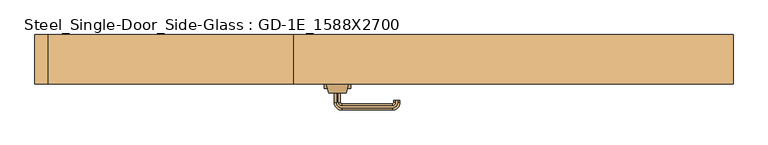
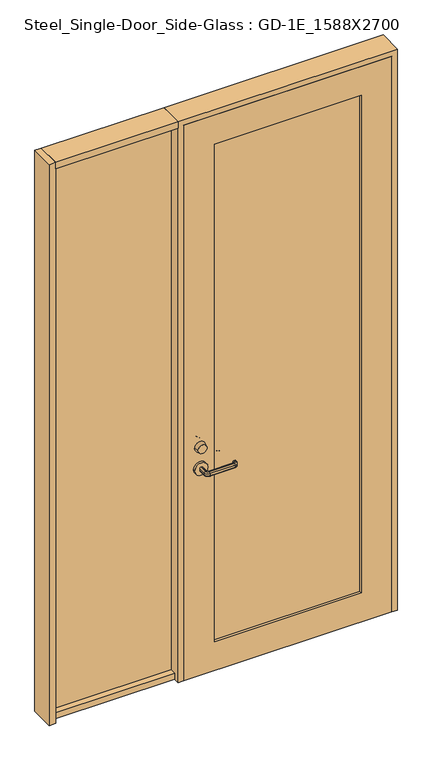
"""IFC4 building model written with IfcOpenShell, lengths in millimetres: door geometry, Steel_Single-Door_Side-Glass : GD-1E_1588X2700."""

from ifc_helpers import new_model, si_unit, point, frame, frame_2d, origin, origin_with_axes, place, context, project, spatial, polyline, circle_curve, ellipse_curve, trimmed, segment, composite_curve, outline, extrude, source, transform, mapped, element, save
from ifc_brep_helpers import plane_surface, cylinder_surface, revolved_surface, advanced_brep


def steel_single_door_side_glass_gd_1e_1588x2700_2b40b70f(model_context):
    return source(origin(), model_context, "Body", "SolidModel", [
        advanced_brep(
        [(-128.5, -76.0, 1101.3812925), (-88.5, -76.0, 1101.3812925), (-133.5, -56.0, 1101.3812925), (-83.5, -56.0, 1101.3812925)],
        [
            (0, 1, circle_curve(frame((-108.5, -76.0, 1101.3812925), z_axis=(0.0, -1.0, 0.0), x_axis=(1.0, 0.0, 0.0)), 20.0)),
            (1, 0, circle_curve(frame((-108.5, -76.0, 1101.3812925), z_axis=(0.0, -1.0, 0.0), x_axis=(-1.0, 0.0, 0.0)), 20.0)),
            (2, 3, circle_curve(frame((-108.5, -56.0, 1101.3812925), z_axis=(0.0, 1.0, 0.0), x_axis=(-1.0, 0.0, 0.0)), 25.0)),
            (3, 2, circle_curve(frame((-108.5, -56.0, 1101.3812925), z_axis=(0.0, 1.0, 0.0), x_axis=(1.0, 0.0, 0.0)), 25.0)),
            (3, 1),
            (0, 2),
        ],
        [
            plane_surface(frame((-108.5, -76.0, 1101.3812925), z_axis=(0.0, -1.0, 0.0), x_axis=(0.0, 0.0, -1.0))),
            plane_surface(frame((-108.5, -56.0, 1101.3812925), z_axis=(0.0, 1.0, 0.0), x_axis=(0.0, 0.0, -1.0))),
            revolved_surface(polyline([(-88.5, -76.0, 1101.3812925), (-83.5, -56.0, 1101.3812925)]), (-108.5, -156.0, 1101.3812925), (0.0, 1.0, 0.0)),
            revolved_surface(polyline([(-128.5, -76.0, 1101.3812925), (-133.5, -56.0, 1101.3812925)]), (-108.5, -156.0, 1101.3812925), (0.0, 1.0, 0.0)),
        ],
        [
            (0, [[1, 2]]),
            (1, [[3, 4]]),
            (2, [[5, -1, 6, -4]]),
            (3, [[-6, -2, -5, -3]]),
        ],
    ),
        advanced_brep(
        [(-128.5, -6.0, 1101.3812925), (-88.5, -6.0, 1101.3812925), (-133.5, -26.0, 1101.3812925), (-83.5, -26.0, 1101.3812925)],
        [
            (0, 1, circle_curve(frame((-108.5, -6.0, 1101.3812925), z_axis=(0.0, 1.0, 0.0), x_axis=(1.0, 0.0, 0.0)), 20.0)),
            (1, 0, circle_curve(frame((-108.5, -6.0, 1101.3812925), z_axis=(0.0, 1.0, 0.0), x_axis=(-1.0, 0.0, 0.0)), 20.0)),
            (2, 3, circle_curve(frame((-108.5, -26.0, 1101.3812925), z_axis=(0.0, -1.0, 0.0), x_axis=(-1.0, 0.0, 0.0)), 25.0)),
            (3, 2, circle_curve(frame((-108.5, -26.0, 1101.3812925), z_axis=(0.0, -1.0, 0.0), x_axis=(1.0, 0.0, 0.0)), 25.0)),
            (2, 0),
            (1, 3),
        ],
        [
            plane_surface(frame((-108.5, -6.0, 1101.3812925), z_axis=(0.0, 1.0, 0.0), x_axis=(0.0, 0.0, -1.0))),
            plane_surface(frame((-108.5, -26.0, 1101.3812925), z_axis=(0.0, -1.0, 0.0), x_axis=(0.0, 0.0, -1.0))),
            revolved_surface(polyline([(-128.5, -6.0, 1101.3812925), (-133.5, -26.0, 1101.3812925)]), (-108.5, 74.0, 1101.3812925), (0.0, -1.0, 0.0)),
            revolved_surface(polyline([(-88.5, -6.0, 1101.3812925), (-83.5, -26.0, 1101.3812925)]), (-108.5, 74.0, 1101.3812925), (0.0, -1.0, 0.0)),
        ],
        [
            (0, [[1, 2]]),
            (1, [[3, 4]]),
            (2, [[5, -2, 6, -3]]),
            (3, [[-6, -1, -5, -4]]),
        ],
    ),
        advanced_brep(
        [(-110.5, -66.0, 1010.0), (-106.5, -66.0, 1010.0), (-101.5, -66.0, 1005.0), (-101.5, -66.0, 995.0477623), (-106.5, -66.0, 990.0477623), (-110.5, -66.0, 990.0477623), (-115.5, -66.0, 995.0477623), (-115.5, -66.0, 1005.0), (-115.5, -98.5, 1005.0), (-110.5, -98.5, 1010.0), (-115.5, -98.5, 995.0477623), (-110.5, -98.5, 990.0477623), (-106.5, -98.5, 990.0477623), (-98.5, -106.5, 990.0477623), (16.5, -106.5, 990.0477623), (24.5, -98.5, 990.0477623), (24.5, -93.5, 990.0477623), (28.5, -93.5, 990.0477623), (28.5, -98.5, 990.0477623), (16.5, -110.5, 990.0477623), (-98.5, -110.5, 990.0477623), (-101.5, -98.5, 995.0477623), (-101.5, -98.5, 1005.0), (-106.5, -98.5, 1010.0), (-98.5, -110.5, 1010.0), (16.5, -110.5, 1010.0), (28.5, -98.5, 1010.0), (28.5, -93.5, 1010.0), (24.5, -93.5, 1010.0), (24.5, -98.5, 1010.0), (16.5, -106.5, 1010.0), (-98.5, -106.5, 1010.0), (-98.5, -115.5, 1005.0), (-98.5, -115.5, 995.0477623), (-98.5, -101.5, 995.0477623), (-98.5, -101.5, 1005.0), (16.5, -115.5, 1005.0), (16.5, -115.5, 995.0477623), (16.5, -101.5, 995.0477623), (16.5, -101.5, 1005.0), (33.5, -98.5, 1005.0), (33.5, -98.5, 995.0477623), (19.5, -98.5, 995.0477623), (19.5, -98.5, 1005.0), (33.5, -93.5, 1005.0), (33.5, -93.5, 995.0477623), (19.5, -93.5, 995.0477623), (19.5, -93.5, 1005.0)],
        [
            (0, 1),
            (1, 2, circle_curve(frame((-106.5, -66.0, 1005.0), z_axis=(0.0, 1.0, 0.0), x_axis=(-1.0, 0.0, 0.0)), 5.0)),
            (2, 3),
            (3, 4, circle_curve(frame((-106.5, -66.0, 995.0477623), z_axis=(0.0, 1.0, 0.0), x_axis=(-1.0, 0.0, 0.0)), 5.0)),
            (4, 5),
            (5, 6, circle_curve(frame((-110.5, -66.0, 995.0477623), z_axis=(0.0, 1.0, 0.0), x_axis=(-1.0, 0.0, 0.0)), 5.0)),
            (6, 7),
            (7, 0, circle_curve(frame((-110.5, -66.0, 1005.0), z_axis=(0.0, 1.0, 0.0), x_axis=(-1.0, 0.0, 0.0)), 5.0)),
            (7, 8),
            (8, 9, circle_curve(frame((-110.5, -98.5, 1005.0), z_axis=(0.0, 1.0, 0.0), x_axis=(-1.0, 0.0, 0.0)), 5.0)),
            (9, 0),
            (6, 10),
            (10, 8),
            (5, 11),
            (11, 10, circle_curve(frame((-110.5, -98.5, 995.0477623), z_axis=(0.0, 1.0, 0.0), x_axis=(-1.0, 0.0, 0.0)), 5.0)),
            (4, 12),
            (12, 13, circle_curve(frame((-98.5, -98.5, 990.0477623), z_axis=(0.0, 0.0, 1.0), x_axis=(-1.0, 0.0, 0.0)), 8.0)),
            (13, 14),
            (14, 15, circle_curve(frame((16.5, -98.5, 990.0477623), z_axis=(0.0, 0.0, 1.0), x_axis=(0.0, -1.0, 0.0)), 8.0)),
            (15, 16),
            (16, 17),
            (17, 18),
            (18, 19, circle_curve(frame((16.5, -98.5, 990.0477623), z_axis=(0.0, 0.0, -1.0), x_axis=(0.0, -1.0, 0.0)), 12.0)),
            (19, 20),
            (20, 11, circle_curve(frame((-98.5, -98.5, 990.0477623), z_axis=(0.0, 0.0, -1.0), x_axis=(-1.0, 0.0, 0.0)), 12.0)),
            (3, 21),
            (21, 12, circle_curve(frame((-106.5, -98.5, 995.0477623), z_axis=(0.0, 1.0, 0.0), x_axis=(-1.0, 0.0, 0.0)), 5.0)),
            (2, 22),
            (22, 21),
            (1, 23),
            (23, 22, circle_curve(frame((-106.5, -98.5, 1005.0), z_axis=(0.0, 1.0, 0.0), x_axis=(-1.0, 0.0, 0.0)), 5.0)),
            (9, 24, circle_curve(frame((-98.5, -98.5, 1010.0), z_axis=(0.0, 0.0, 1.0), x_axis=(-1.0, 0.0, 0.0)), 12.0)),
            (24, 25),
            (25, 26, circle_curve(frame((16.5, -98.5, 1010.0), z_axis=(0.0, 0.0, 1.0), x_axis=(0.0, -1.0, 0.0)), 12.0)),
            (26, 27),
            (27, 28),
            (28, 29),
            (29, 30, circle_curve(frame((16.5, -98.5, 1010.0), z_axis=(0.0, 0.0, -1.0), x_axis=(0.0, -1.0, 0.0)), 8.0)),
            (30, 31),
            (31, 23, circle_curve(frame((-98.5, -98.5, 1010.0), z_axis=(0.0, 0.0, -1.0), x_axis=(-1.0, 0.0, 0.0)), 8.0)),
            (32, 24, circle_curve(frame((-98.5, -110.5, 1005.0), z_axis=(-1.0, 0.0, 0.0), x_axis=(0.0, -1.0, 0.0)), 5.0)),
            (8, 32, circle_curve(frame((-98.5, -98.5, 1005.0), z_axis=(0.0, 0.0, 1.0), x_axis=(-1.0, 0.0, 0.0)), 17.0)),
            (33, 32),
            (10, 33, circle_curve(frame((-98.5, -98.5, 995.0477623), z_axis=(0.0, 0.0, 1.0), x_axis=(-1.0, 0.0, 0.0)), 17.0)),
            (20, 33, circle_curve(frame((-98.5, -110.5, 995.0477623), z_axis=(-1.0, 0.0, 0.0), x_axis=(0.0, -1.0, 0.0)), 5.0)),
            (34, 13, circle_curve(frame((-98.5, -106.5, 995.0477623), z_axis=(-1.0, 0.0, 0.0), x_axis=(0.0, -1.0, 0.0)), 5.0)),
            (21, 34, circle_curve(frame((-98.5, -98.5, 995.0477623), z_axis=(0.0, 0.0, 1.0), x_axis=(-1.0, 0.0, 0.0)), 3.0)),
            (35, 34),
            (22, 35, circle_curve(frame((-98.5, -98.5, 1005.0), z_axis=(0.0, 0.0, 1.0), x_axis=(-1.0, 0.0, 0.0)), 3.0)),
            (31, 35, circle_curve(frame((-98.5, -106.5, 1005.0), z_axis=(-1.0, 0.0, 0.0), x_axis=(0.0, -1.0, 0.0)), 5.0)),
            (32, 36),
            (36, 25, circle_curve(frame((16.5, -110.5, 1005.0), z_axis=(-1.0, 0.0, 0.0), x_axis=(0.0, -1.0, 0.0)), 5.0)),
            (33, 37),
            (37, 36),
            (19, 37, circle_curve(frame((16.5, -110.5, 995.0477623), z_axis=(-1.0, 0.0, 0.0), x_axis=(0.0, -1.0, 0.0)), 5.0)),
            (34, 38),
            (38, 14, circle_curve(frame((16.5, -106.5, 995.0477623), z_axis=(-1.0, 0.0, 0.0), x_axis=(0.0, -1.0, 0.0)), 5.0)),
            (35, 39),
            (39, 38),
            (30, 39, circle_curve(frame((16.5, -106.5, 1005.0), z_axis=(-1.0, 0.0, 0.0), x_axis=(0.0, -1.0, 0.0)), 5.0)),
            (40, 26, circle_curve(frame((28.5, -98.5, 1005.0), z_axis=(0.0, -1.0, 0.0), x_axis=(1.0, 0.0, 0.0)), 5.0)),
            (36, 40, circle_curve(frame((16.5, -98.5, 1005.0), z_axis=(0.0, 0.0, 1.0), x_axis=(0.0, -1.0, 0.0)), 17.0)),
            (41, 40),
            (37, 41, circle_curve(frame((16.5, -98.5, 995.0477623), z_axis=(0.0, 0.0, 1.0), x_axis=(0.0, -1.0, 0.0)), 17.0)),
            (18, 41, circle_curve(frame((28.5, -98.5, 995.0477623), z_axis=(0.0, -1.0, 0.0), x_axis=(1.0, 0.0, 0.0)), 5.0)),
            (42, 15, circle_curve(frame((24.5, -98.5, 995.0477623), z_axis=(0.0, -1.0, 0.0), x_axis=(1.0, 0.0, 0.0)), 5.0)),
            (38, 42, circle_curve(frame((16.5, -98.5, 995.0477623), z_axis=(0.0, 0.0, 1.0), x_axis=(0.0, -1.0, 0.0)), 3.0)),
            (43, 42),
            (39, 43, circle_curve(frame((16.5, -98.5, 1005.0), z_axis=(0.0, 0.0, 1.0), x_axis=(0.0, -1.0, 0.0)), 3.0)),
            (29, 43, circle_curve(frame((24.5, -98.5, 1005.0), z_axis=(0.0, -1.0, 0.0), x_axis=(1.0, 0.0, 0.0)), 5.0)),
            (27, 44, circle_curve(frame((28.5, -93.5, 1005.0), z_axis=(0.0, 1.0, 0.0), x_axis=(1.0, 0.0, 0.0)), 5.0)),
            (44, 45),
            (45, 17, circle_curve(frame((28.5, -93.5, 995.0477623), z_axis=(0.0, 1.0, 0.0), x_axis=(1.0, 0.0, 0.0)), 5.0)),
            (16, 46, circle_curve(frame((24.5, -93.5, 995.0477623), z_axis=(0.0, 1.0, 0.0), x_axis=(1.0, 0.0, 0.0)), 5.0)),
            (46, 47),
            (47, 28, circle_curve(frame((24.5, -93.5, 1005.0), z_axis=(0.0, 1.0, 0.0), x_axis=(1.0, 0.0, 0.0)), 5.0)),
            (40, 44),
            (41, 45),
            (42, 46),
            (43, 47),
        ],
        [
            plane_surface(frame((-118.698039, -66.0, 1000.0), z_axis=(0.0, 1.0, 0.0), x_axis=(0.0, 0.0, 1.0))),
            cylinder_surface(frame((-110.5, -66.0, 1005.0), z_axis=(0.0, 1.0, 0.0), x_axis=(-1.0, 0.0, 0.0)), 5.0),
            plane_surface(frame((-115.5, -66.0, 1005.0), z_axis=(-1.0, 0.0, 0.0), x_axis=(0.0, -1.0, 0.0))),
            cylinder_surface(frame((-110.5, -66.0, 995.0477623), z_axis=(0.0, 1.0, 0.0), x_axis=(-1.0, 0.0, 0.0)), 5.0),
            plane_surface(frame((-110.5, -66.0, 990.0477623), z_axis=(0.0, 0.0, -1.0), x_axis=(0.0, -1.0, 0.0))),
            cylinder_surface(frame((-106.5, -66.0, 995.0477623), z_axis=(0.0, 1.0, 0.0), x_axis=(-1.0, 0.0, 0.0)), 5.0),
            plane_surface(frame((-101.5, -66.0, 995.0477623), z_axis=(1.0, 0.0, 0.0), x_axis=(0.0, -1.0, 0.0))),
            cylinder_surface(frame((-106.5, -66.0, 1005.0), z_axis=(0.0, 1.0, 0.0), x_axis=(-1.0, 0.0, 0.0)), 5.0),
            plane_surface(frame((-106.5, -66.0, 1010.0), z_axis=(0.0, 0.0, 1.0), x_axis=(0.0, -1.0, 0.0))),
            revolved_surface(trimmed(ellipse_curve(frame((-110.5, -98.5, 1005.0), z_axis=(0.0, -1.0, 0.0), x_axis=(-1.0, 0.0, 0.0)), 5.0, 5.0), [point((-110.5, -98.5, 1010.0))], [point((-115.5, -98.5, 1005.0))], True, "CARTESIAN"), (-98.5, -98.5, 1000.0), (0.0, 0.0, -1.0)),
            cylinder_surface(frame((-98.5, -98.5, 1000.0), z_axis=(0.0, 0.0, -1.0), x_axis=(-1.0, 0.0, 0.0)), 17.0),
            revolved_surface(trimmed(ellipse_curve(frame((-110.5, -98.5, 995.0477623), z_axis=(0.0, -1.0, 0.0), x_axis=(-1.0, 0.0, 0.0)), 5.0, 5.0), [point((-115.5, -98.5, 995.0477623))], [point((-110.5, -98.5, 990.0477623))], True, "CARTESIAN"), (-98.5, -98.5, 1000.0), (0.0, 0.0, -1.0)),
            revolved_surface(trimmed(ellipse_curve(frame((-106.5, -98.5, 995.0477623), z_axis=(0.0, -1.0, 0.0), x_axis=(-1.0, 0.0, 0.0)), 5.0, 5.0), [point((-106.5, -98.5, 990.0477623))], [point((-101.5, -98.5, 995.0477623))], True, "CARTESIAN"), (-98.5, -98.5, 1000.0), (0.0, 0.0, -1.0)),
            revolved_surface(polyline([(-101.5, -98.5, 995.0477623), (-101.5, -98.5, 1005.0)]), (-98.5, -98.5, 1000.0), (0.0, 0.0, -1.0)),
            revolved_surface(trimmed(ellipse_curve(frame((-106.5, -98.5, 1005.0), z_axis=(0.0, -1.0, 0.0), x_axis=(-1.0, 0.0, 0.0)), 5.0, 5.0), [point((-101.5, -98.5, 1005.0))], [point((-106.5, -98.5, 1010.0))], True, "CARTESIAN"), (-98.5, -98.5, 1000.0), (0.0, 0.0, -1.0)),
            cylinder_surface(frame((-98.5, -110.5, 1005.0), z_axis=(-1.0, 0.0, 0.0), x_axis=(0.0, -1.0, 0.0)), 5.0),
            plane_surface(frame((-98.5, -115.5, 1005.0), z_axis=(0.0, -1.0, 0.0), x_axis=(1.0, 0.0, 0.0))),
            cylinder_surface(frame((-98.5, -110.5, 995.0477623), z_axis=(-1.0, 0.0, 0.0), x_axis=(0.0, -1.0, 0.0)), 5.0),
            cylinder_surface(frame((-98.5, -106.5, 995.0477623), z_axis=(-1.0, 0.0, 0.0), x_axis=(0.0, -1.0, 0.0)), 5.0),
            plane_surface(frame((-98.5, -101.5, 995.0477623), z_axis=(0.0, 1.0, 0.0), x_axis=(1.0, 0.0, 0.0))),
            cylinder_surface(frame((-98.5, -106.5, 1005.0), z_axis=(-1.0, 0.0, 0.0), x_axis=(0.0, -1.0, 0.0)), 5.0),
            revolved_surface(trimmed(ellipse_curve(frame((16.5, -110.5, 1005.0), z_axis=(1.0, 0.0, 0.0), x_axis=(0.0, -1.0, 0.0)), 5.0, 5.0), [point((16.5, -110.5, 1010.0))], [point((16.5, -115.5, 1005.0))], True, "CARTESIAN"), (16.5, -98.5, 1000.0), (0.0, 0.0, -1.0)),
            cylinder_surface(frame((16.5, -98.5, 1000.0), z_axis=(0.0, 0.0, -1.0), x_axis=(0.0, -1.0, 0.0)), 17.0),
            revolved_surface(trimmed(ellipse_curve(frame((16.5, -110.5, 995.0477623), z_axis=(1.0, 0.0, 0.0), x_axis=(0.0, -1.0, 0.0)), 5.0, 5.0), [point((16.5, -115.5, 995.0477623))], [point((16.5, -110.5, 990.0477623))], True, "CARTESIAN"), (16.5, -98.5, 1000.0), (0.0, 0.0, -1.0)),
            revolved_surface(trimmed(ellipse_curve(frame((16.5, -106.5, 995.0477623), z_axis=(1.0, 0.0, 0.0), x_axis=(0.0, -1.0, 0.0)), 5.0, 5.0), [point((16.5, -106.5, 990.0477623))], [point((16.5, -101.5, 995.0477623))], True, "CARTESIAN"), (16.5, -98.5, 1000.0), (0.0, 0.0, -1.0)),
            revolved_surface(polyline([(16.5, -101.5, 995.0477623), (16.5, -101.5, 1005.0)]), (16.5, -98.5, 1000.0), (0.0, 0.0, -1.0)),
            revolved_surface(trimmed(ellipse_curve(frame((16.5, -106.5, 1005.0), z_axis=(1.0, 0.0, 0.0), x_axis=(0.0, -1.0, 0.0)), 5.0, 5.0), [point((16.5, -101.5, 1005.0))], [point((16.5, -106.5, 1010.0))], True, "CARTESIAN"), (16.5, -98.5, 1000.0), (0.0, 0.0, -1.0)),
            plane_surface(frame((16.301961, -93.5, 1000.0), z_axis=(0.0, 1.0, 0.0), x_axis=(0.0, 0.0, -1.0))),
            cylinder_surface(frame((28.5, -98.5, 1005.0), z_axis=(0.0, -1.0, 0.0), x_axis=(1.0, 0.0, 0.0)), 5.0),
            plane_surface(frame((33.5, -98.5, 1005.0), z_axis=(1.0, 0.0, 0.0), x_axis=(0.0, 1.0, 0.0))),
            cylinder_surface(frame((28.5, -98.5, 995.0477623), z_axis=(0.0, -1.0, 0.0), x_axis=(1.0, 0.0, 0.0)), 5.0),
            cylinder_surface(frame((24.5, -98.5, 995.0477623), z_axis=(0.0, -1.0, 0.0), x_axis=(1.0, 0.0, 0.0)), 5.0),
            plane_surface(frame((19.5, -98.5, 995.0477623), z_axis=(-1.0, 0.0, 0.0), x_axis=(0.0, 1.0, 0.0))),
            cylinder_surface(frame((24.5, -98.5, 1005.0), z_axis=(0.0, -1.0, 0.0), x_axis=(1.0, 0.0, 0.0)), 5.0),
        ],
        [
            (0, [[1, 2, 3, 4, 5, 6, 7, 8]]),
            (1, [[9, 10, 11, -8]]),
            (2, [[12, 13, -9, -7]]),
            (3, [[14, 15, -12, -6]]),
            (4, [[16, 17, 18, 19, 20, 21, 22, 23, 24, 25, -14, -5]]),
            (5, [[26, 27, -16, -4]]),
            (6, [[28, 29, -26, -3]]),
            (7, [[30, 31, -28, -2]]),
            (8, [[-11, 32, 33, 34, 35, 36, 37, 38, 39, 40, -30, -1]]),
            (9, [[41, -32, -10, 42]]),
            (10, [[43, -42, -13, 44]]),
            (11, [[45, -44, -15, -25]]),
            (12, [[46, -17, -27, 47]]),
            (13, [[48, -47, -29, 49]]),
            (14, [[50, -49, -31, -40]]),
            (15, [[51, 52, -33, -41]]),
            (16, [[53, 54, -51, -43]]),
            (17, [[-24, 55, -53, -45]]),
            (18, [[56, 57, -18, -46]]),
            (19, [[58, 59, -56, -48]]),
            (20, [[-39, 60, -58, -50]]),
            (21, [[61, -34, -52, 62]]),
            (22, [[63, -62, -54, 64]]),
            (23, [[65, -64, -55, -23]]),
            (24, [[66, -19, -57, 67]]),
            (25, [[68, -67, -59, 69]]),
            (26, [[70, -69, -60, -38]]),
            (27, [[71, 72, 73, -21, 74, 75, 76, -36]]),
            (28, [[77, -71, -35, -61]]),
            (29, [[78, -72, -77, -63]]),
            (30, [[-22, -73, -78, -65]]),
            (31, [[79, -74, -20, -66]]),
            (32, [[80, -75, -79, -68]]),
            (33, [[-37, -76, -80, -70]]),
        ],
    ),
        advanced_brep(
        [(-106.5, -16.0, 990.0), (-101.5, -16.0, 995.0), (-101.5, -16.0, 1005.0), (-106.5, -16.0, 1010.0), (-110.5, -16.0, 1010.0), (-115.5, -16.0, 1005.0), (-115.5, -16.0, 995.0), (-110.5, -16.0, 990.0), (-110.5, 16.5, 990.0), (-98.5, 28.5, 990.0), (16.5, 28.5, 990.0), (28.5, 16.5, 990.0), (28.5, 11.5, 990.0), (24.5, 11.5, 990.0), (24.5, 16.5, 990.0), (16.5, 24.5, 990.0), (-98.5, 24.5, 990.0), (-106.5, 16.5, 990.0), (-115.5, 16.5, 995.0), (-115.5, 16.5, 1005.0), (-110.5, 16.5, 1010.0), (-106.5, 16.5, 1010.0), (-98.5, 24.5, 1010.0), (16.5, 24.5, 1010.0), (24.5, 16.5, 1010.0), (24.5, 11.5, 1010.0), (28.5, 11.5, 1010.0), (28.5, 16.5, 1010.0), (16.5, 28.5, 1010.0), (-98.5, 28.5, 1010.0), (-101.5, 16.5, 1005.0), (-101.5, 16.5, 995.0), (-98.5, 33.5, 995.0), (-98.5, 33.5, 1005.0), (-98.5, 19.5, 1005.0), (-98.5, 19.5, 995.0), (16.5, 33.5, 995.0), (16.5, 33.5, 1005.0), (16.5, 19.5, 1005.0), (16.5, 19.5, 995.0), (33.5, 16.5, 995.0), (33.5, 16.5, 1005.0), (19.5, 16.5, 1005.0), (19.5, 16.5, 995.0), (33.5, 11.5, 995.0), (33.5, 11.5, 1005.0), (19.5, 11.5, 1005.0), (19.5, 11.5, 995.0)],
        [
            (0, 1, circle_curve(frame((-106.5, -16.0, 995.0), z_axis=(0.0, -1.0, 0.0), x_axis=(1.0, 0.0, 0.0)), 5.0)),
            (1, 2),
            (2, 3, circle_curve(frame((-106.5, -16.0, 1005.0), z_axis=(0.0, -1.0, 0.0), x_axis=(1.0, 0.0, 0.0)), 5.0)),
            (3, 4),
            (4, 5, circle_curve(frame((-110.5, -16.0, 1005.0), z_axis=(0.0, -1.0, 0.0), x_axis=(1.0, 0.0, 0.0)), 5.0)),
            (5, 6),
            (6, 7, circle_curve(frame((-110.5, -16.0, 995.0), z_axis=(0.0, -1.0, 0.0), x_axis=(1.0, 0.0, 0.0)), 5.0)),
            (7, 0),
            (7, 8),
            (8, 9, circle_curve(frame((-98.5, 16.5, 990.0), z_axis=(0.0, 0.0, -1.0), x_axis=(-1.0, 0.0, 0.0)), 12.0)),
            (9, 10),
            (10, 11, circle_curve(frame((16.5, 16.5, 990.0), z_axis=(0.0, 0.0, -1.0), x_axis=(0.0, 1.0, 0.0)), 12.0)),
            (11, 12),
            (12, 13),
            (13, 14),
            (14, 15, circle_curve(frame((16.5, 16.5, 990.0), z_axis=(0.0, 0.0, 1.0), x_axis=(0.0, 1.0, 0.0)), 8.0)),
            (15, 16),
            (16, 17, circle_curve(frame((-98.5, 16.5, 990.0), z_axis=(0.0, 0.0, 1.0), x_axis=(-1.0, 0.0, 0.0)), 8.0)),
            (17, 0),
            (6, 18),
            (18, 8, circle_curve(frame((-110.5, 16.5, 995.0), z_axis=(0.0, -1.0, 0.0), x_axis=(1.0, 0.0, 0.0)), 5.0)),
            (5, 19),
            (19, 18),
            (4, 20),
            (20, 19, circle_curve(frame((-110.5, 16.5, 1005.0), z_axis=(0.0, -1.0, 0.0), x_axis=(1.0, 0.0, 0.0)), 5.0)),
            (3, 21),
            (21, 22, circle_curve(frame((-98.5, 16.5, 1010.0), z_axis=(0.0, 0.0, -1.0), x_axis=(-1.0, 0.0, 0.0)), 8.0)),
            (22, 23),
            (23, 24, circle_curve(frame((16.5, 16.5, 1010.0), z_axis=(0.0, 0.0, -1.0), x_axis=(0.0, 1.0, 0.0)), 8.0)),
            (24, 25),
            (25, 26),
            (26, 27),
            (27, 28, circle_curve(frame((16.5, 16.5, 1010.0), z_axis=(0.0, 0.0, 1.0), x_axis=(0.0, 1.0, 0.0)), 12.0)),
            (28, 29),
            (29, 20, circle_curve(frame((-98.5, 16.5, 1010.0), z_axis=(0.0, 0.0, 1.0), x_axis=(-1.0, 0.0, 0.0)), 12.0)),
            (2, 30),
            (30, 21, circle_curve(frame((-106.5, 16.5, 1005.0), z_axis=(0.0, -1.0, 0.0), x_axis=(1.0, 0.0, 0.0)), 5.0)),
            (1, 31),
            (31, 30),
            (17, 31, circle_curve(frame((-106.5, 16.5, 995.0), z_axis=(0.0, -1.0, 0.0), x_axis=(1.0, 0.0, 0.0)), 5.0)),
            (32, 9, circle_curve(frame((-98.5, 28.5, 995.0), z_axis=(-1.0, 0.0, 0.0), x_axis=(0.0, -1.0, 0.0)), 5.0)),
            (18, 32, circle_curve(frame((-98.5, 16.5, 995.0), z_axis=(0.0, 0.0, -1.0), x_axis=(-1.0, 0.0, 0.0)), 17.0)),
            (33, 32),
            (19, 33, circle_curve(frame((-98.5, 16.5, 1005.0), z_axis=(0.0, 0.0, -1.0), x_axis=(-1.0, 0.0, 0.0)), 17.0)),
            (29, 33, circle_curve(frame((-98.5, 28.5, 1005.0), z_axis=(-1.0, 0.0, 0.0), x_axis=(0.0, -1.0, 0.0)), 5.0)),
            (34, 22, circle_curve(frame((-98.5, 24.5, 1005.0), z_axis=(-1.0, 0.0, 0.0), x_axis=(0.0, -1.0, 0.0)), 5.0)),
            (30, 34, circle_curve(frame((-98.5, 16.5, 1005.0), z_axis=(0.0, 0.0, -1.0), x_axis=(-1.0, 0.0, 0.0)), 3.0)),
            (35, 34),
            (31, 35, circle_curve(frame((-98.5, 16.5, 995.0), z_axis=(0.0, 0.0, -1.0), x_axis=(-1.0, 0.0, 0.0)), 3.0)),
            (16, 35, circle_curve(frame((-98.5, 24.5, 995.0), z_axis=(-1.0, 0.0, 0.0), x_axis=(0.0, -1.0, 0.0)), 5.0)),
            (32, 36),
            (36, 10, circle_curve(frame((16.5, 28.5, 995.0), z_axis=(-1.0, 0.0, 0.0), x_axis=(0.0, -1.0, 0.0)), 5.0)),
            (33, 37),
            (37, 36),
            (28, 37, circle_curve(frame((16.5, 28.5, 1005.0), z_axis=(-1.0, 0.0, 0.0), x_axis=(0.0, -1.0, 0.0)), 5.0)),
            (34, 38),
            (38, 23, circle_curve(frame((16.5, 24.5, 1005.0), z_axis=(-1.0, 0.0, 0.0), x_axis=(0.0, -1.0, 0.0)), 5.0)),
            (35, 39),
            (39, 38),
            (15, 39, circle_curve(frame((16.5, 24.5, 995.0), z_axis=(-1.0, 0.0, 0.0), x_axis=(0.0, -1.0, 0.0)), 5.0)),
            (40, 11, circle_curve(frame((28.5, 16.5, 995.0), z_axis=(0.0, 1.0, 0.0), x_axis=(-1.0, 0.0, 0.0)), 5.0)),
            (36, 40, circle_curve(frame((16.5, 16.5, 995.0), z_axis=(0.0, 0.0, -1.0), x_axis=(0.0, 1.0, 0.0)), 17.0)),
            (41, 40),
            (37, 41, circle_curve(frame((16.5, 16.5, 1005.0), z_axis=(0.0, 0.0, -1.0), x_axis=(0.0, 1.0, 0.0)), 17.0)),
            (27, 41, circle_curve(frame((28.5, 16.5, 1005.0), z_axis=(0.0, 1.0, 0.0), x_axis=(-1.0, 0.0, 0.0)), 5.0)),
            (42, 24, circle_curve(frame((24.5, 16.5, 1005.0), z_axis=(0.0, 1.0, 0.0), x_axis=(-1.0, 0.0, 0.0)), 5.0)),
            (38, 42, circle_curve(frame((16.5, 16.5, 1005.0), z_axis=(0.0, 0.0, -1.0), x_axis=(0.0, 1.0, 0.0)), 3.0)),
            (43, 42),
            (39, 43, circle_curve(frame((16.5, 16.5, 995.0), z_axis=(0.0, 0.0, -1.0), x_axis=(0.0, 1.0, 0.0)), 3.0)),
            (14, 43, circle_curve(frame((24.5, 16.5, 995.0), z_axis=(0.0, 1.0, 0.0), x_axis=(-1.0, 0.0, 0.0)), 5.0)),
            (12, 44, circle_curve(frame((28.5, 11.5, 995.0), z_axis=(0.0, -1.0, 0.0), x_axis=(-1.0, 0.0, 0.0)), 5.0)),
            (44, 45),
            (45, 26, circle_curve(frame((28.5, 11.5, 1005.0), z_axis=(0.0, -1.0, 0.0), x_axis=(-1.0, 0.0, 0.0)), 5.0)),
            (25, 46, circle_curve(frame((24.5, 11.5, 1005.0), z_axis=(0.0, -1.0, 0.0), x_axis=(-1.0, 0.0, 0.0)), 5.0)),
            (46, 47),
            (47, 13, circle_curve(frame((24.5, 11.5, 995.0), z_axis=(0.0, -1.0, 0.0), x_axis=(-1.0, 0.0, 0.0)), 5.0)),
            (40, 44),
            (41, 45),
            (42, 46),
            (43, 47),
        ],
        [
            plane_surface(frame((-118.698039, -16.0, 1000.0), z_axis=(0.0, -1.0, 0.0), x_axis=(0.0, 0.0, -1.0))),
            plane_surface(frame((-106.5, -16.0, 990.0), z_axis=(0.0, 0.0, -1.0), x_axis=(0.0, 1.0, 0.0))),
            cylinder_surface(frame((-110.5, -16.0, 995.0), z_axis=(0.0, -1.0, 0.0), x_axis=(1.0, 0.0, 0.0)), 5.0),
            plane_surface(frame((-115.5, -16.0, 995.0), z_axis=(-1.0, 0.0, 0.0), x_axis=(0.0, 1.0, 0.0))),
            cylinder_surface(frame((-110.5, -16.0, 1005.0), z_axis=(0.0, -1.0, 0.0), x_axis=(1.0, 0.0, 0.0)), 5.0),
            plane_surface(frame((-110.5, -16.0, 1010.0), z_axis=(0.0, 0.0, 1.0), x_axis=(0.0, 1.0, 0.0))),
            cylinder_surface(frame((-106.5, -16.0, 1005.0), z_axis=(0.0, -1.0, 0.0), x_axis=(1.0, 0.0, 0.0)), 5.0),
            plane_surface(frame((-101.5, -16.0, 1005.0), z_axis=(1.0, 0.0, 0.0), x_axis=(0.0, 1.0, 0.0))),
            cylinder_surface(frame((-106.5, -16.0, 995.0), z_axis=(0.0, -1.0, 0.0), x_axis=(1.0, 0.0, 0.0)), 5.0),
            revolved_surface(trimmed(ellipse_curve(frame((-110.5, 16.5, 995.0), z_axis=(0.0, 1.0, 0.0), x_axis=(1.0, 0.0, 0.0)), 5.0, 5.0), [point((-110.5, 16.5, 990.0))], [point((-115.5, 16.5, 995.0))], True, "CARTESIAN"), (-98.5, 16.5, 1000.0), (0.0, 0.0, 1.0)),
            cylinder_surface(frame((-98.5, 16.5, 1000.0), z_axis=(0.0, 0.0, 1.0), x_axis=(-1.0, 0.0, 0.0)), 17.0),
            revolved_surface(trimmed(ellipse_curve(frame((-110.5, 16.5, 1005.0), z_axis=(0.0, 1.0, 0.0), x_axis=(1.0, 0.0, 0.0)), 5.0, 5.0), [point((-115.5, 16.5, 1005.0))], [point((-110.5, 16.5, 1010.0))], True, "CARTESIAN"), (-98.5, 16.5, 1000.0), (0.0, 0.0, 1.0)),
            revolved_surface(trimmed(ellipse_curve(frame((-106.5, 16.5, 1005.0), z_axis=(0.0, 1.0, 0.0), x_axis=(1.0, 0.0, 0.0)), 5.0, 5.0), [point((-106.5, 16.5, 1010.0))], [point((-101.5, 16.5, 1005.0))], True, "CARTESIAN"), (-98.5, 16.5, 1000.0), (0.0, 0.0, 1.0)),
            revolved_surface(polyline([(-101.5, 16.5, 1005.0), (-101.5, 16.5, 995.0)]), (-98.5, 16.5, 1000.0), (0.0, 0.0, 1.0)),
            revolved_surface(trimmed(ellipse_curve(frame((-106.5, 16.5, 995.0), z_axis=(0.0, 1.0, 0.0), x_axis=(1.0, 0.0, 0.0)), 5.0, 5.0), [point((-101.5, 16.5, 995.0))], [point((-106.5, 16.5, 990.0))], True, "CARTESIAN"), (-98.5, 16.5, 1000.0), (0.0, 0.0, 1.0)),
            cylinder_surface(frame((-98.5, 28.5, 995.0), z_axis=(-1.0, 0.0, 0.0), x_axis=(0.0, -1.0, 0.0)), 5.0),
            plane_surface(frame((-98.5, 33.5, 995.0), z_axis=(0.0, 1.0, 0.0), x_axis=(1.0, 0.0, 0.0))),
            cylinder_surface(frame((-98.5, 28.5, 1005.0), z_axis=(-1.0, 0.0, 0.0), x_axis=(0.0, -1.0, 0.0)), 5.0),
            cylinder_surface(frame((-98.5, 24.5, 1005.0), z_axis=(-1.0, 0.0, 0.0), x_axis=(0.0, -1.0, 0.0)), 5.0),
            plane_surface(frame((-98.5, 19.5, 1005.0), z_axis=(0.0, -1.0, 0.0), x_axis=(1.0, 0.0, 0.0))),
            cylinder_surface(frame((-98.5, 24.5, 995.0), z_axis=(-1.0, 0.0, 0.0), x_axis=(0.0, -1.0, 0.0)), 5.0),
            revolved_surface(trimmed(ellipse_curve(frame((16.5, 28.5, 995.0), z_axis=(1.0, 0.0, 0.0), x_axis=(0.0, -1.0, 0.0)), 5.0, 5.0), [point((16.5, 28.5, 990.0))], [point((16.5, 33.5, 995.0))], True, "CARTESIAN"), (16.5, 16.5, 1000.0), (0.0, 0.0, 1.0)),
            cylinder_surface(frame((16.5, 16.5, 1000.0), z_axis=(0.0, 0.0, 1.0), x_axis=(0.0, 1.0, 0.0)), 17.0),
            revolved_surface(trimmed(ellipse_curve(frame((16.5, 28.5, 1005.0), z_axis=(1.0, 0.0, 0.0), x_axis=(0.0, -1.0, 0.0)), 5.0, 5.0), [point((16.5, 33.5, 1005.0))], [point((16.5, 28.5, 1010.0))], True, "CARTESIAN"), (16.5, 16.5, 1000.0), (0.0, 0.0, 1.0)),
            revolved_surface(trimmed(ellipse_curve(frame((16.5, 24.5, 1005.0), z_axis=(1.0, 0.0, 0.0), x_axis=(0.0, -1.0, 0.0)), 5.0, 5.0), [point((16.5, 24.5, 1010.0))], [point((16.5, 19.5, 1005.0))], True, "CARTESIAN"), (16.5, 16.5, 1000.0), (0.0, 0.0, 1.0)),
            revolved_surface(polyline([(16.5, 19.5, 1005.0), (16.5, 19.5, 995.0)]), (16.5, 16.5, 1000.0), (0.0, 0.0, 1.0)),
            revolved_surface(trimmed(ellipse_curve(frame((16.5, 24.5, 995.0), z_axis=(1.0, 0.0, 0.0), x_axis=(0.0, -1.0, 0.0)), 5.0, 5.0), [point((16.5, 19.5, 995.0))], [point((16.5, 24.5, 990.0))], True, "CARTESIAN"), (16.5, 16.5, 1000.0), (0.0, 0.0, 1.0)),
            plane_surface(frame((16.301961, 11.5, 1000.0), z_axis=(0.0, -1.0, 0.0), x_axis=(0.0, 0.0, 1.0))),
            cylinder_surface(frame((28.5, 16.5, 995.0), z_axis=(0.0, 1.0, 0.0), x_axis=(-1.0, 0.0, 0.0)), 5.0),
            plane_surface(frame((33.5, 16.5, 995.0), z_axis=(1.0, 0.0, 0.0), x_axis=(0.0, -1.0, 0.0))),
            cylinder_surface(frame((28.5, 16.5, 1005.0), z_axis=(0.0, 1.0, 0.0), x_axis=(-1.0, 0.0, 0.0)), 5.0),
            cylinder_surface(frame((24.5, 16.5, 1005.0), z_axis=(0.0, 1.0, 0.0), x_axis=(-1.0, 0.0, 0.0)), 5.0),
            plane_surface(frame((19.5, 16.5, 1005.0), z_axis=(-1.0, 0.0, 0.0), x_axis=(0.0, -1.0, 0.0))),
            cylinder_surface(frame((24.5, 16.5, 995.0), z_axis=(0.0, 1.0, 0.0), x_axis=(-1.0, 0.0, 0.0)), 5.0),
        ],
        [
            (0, [[1, 2, 3, 4, 5, 6, 7, 8]]),
            (1, [[9, 10, 11, 12, 13, 14, 15, 16, 17, 18, 19, -8]]),
            (2, [[20, 21, -9, -7]]),
            (3, [[22, 23, -20, -6]]),
            (4, [[24, 25, -22, -5]]),
            (5, [[26, 27, 28, 29, 30, 31, 32, 33, 34, 35, -24, -4]]),
            (6, [[36, 37, -26, -3]]),
            (7, [[38, 39, -36, -2]]),
            (8, [[-19, 40, -38, -1]]),
            (9, [[41, -10, -21, 42]]),
            (10, [[43, -42, -23, 44]]),
            (11, [[45, -44, -25, -35]]),
            (12, [[46, -27, -37, 47]]),
            (13, [[48, -47, -39, 49]]),
            (14, [[50, -49, -40, -18]]),
            (15, [[51, 52, -11, -41]]),
            (16, [[53, 54, -51, -43]]),
            (17, [[-34, 55, -53, -45]]),
            (18, [[56, 57, -28, -46]]),
            (19, [[58, 59, -56, -48]]),
            (20, [[-17, 60, -58, -50]]),
            (21, [[61, -12, -52, 62]]),
            (22, [[63, -62, -54, 64]]),
            (23, [[65, -64, -55, -33]]),
            (24, [[66, -29, -57, 67]]),
            (25, [[68, -67, -59, 69]]),
            (26, [[70, -69, -60, -16]]),
            (27, [[-14, 71, 72, 73, -31, 74, 75, 76]]),
            (28, [[77, -71, -13, -61]]),
            (29, [[78, -72, -77, -63]]),
            (30, [[-32, -73, -78, -65]]),
            (31, [[79, -74, -30, -66]]),
            (32, [[80, -75, -79, -68]]),
            (33, [[-15, -76, -80, -70]]),
        ],
    ),
        extrude(outline(composite_curve([segment(trimmed(circle_curve(frame_2d((1000.0, -108.5)), 30.0), [point((1000.0, -138.5))], [point((1000.0, -78.5))], False, "CARTESIAN"), True, "CONTINUOUS"), segment(trimmed(circle_curve(frame_2d((1000.0, -108.5)), 30.0), [point((1000.0, -78.5))], [point((1000.0, -138.5))], False, "CARTESIAN"), True, "CONTINUOUS")], self_intersect=False)), frame((0.0, -66.0, 0.0), z_axis=(0.0, 1.0, 0.0), x_axis=(0.0, 0.0, 1.0)), (0.0, 0.0, 1.0), 10.0),
        extrude(outline(composite_curve([segment(trimmed(circle_curve(frame_2d((1000.0, -108.5)), 30.0), [point((1000.0, -138.5))], [point((1000.0, -78.5))], False, "CARTESIAN"), True, "CONTINUOUS"), segment(trimmed(circle_curve(frame_2d((1000.0, -108.5)), 30.0), [point((1000.0, -78.5))], [point((1000.0, -138.5))], False, "CARTESIAN"), True, "CONTINUOUS")], self_intersect=False)), frame((0.0, -26.0, 0.0), z_axis=(0.0, 1.0, 0.0), x_axis=(0.0, 0.0, 1.0)), (0.0, 0.0, 1.0), 10.0),
        extrude(outline(polyline([(-208.5, 56.0), (-208.5, -56.0), (-766.5, -56.0), (-766.5, 56.0), (-208.5, 56.0)])), frame((0.0, 0.0, 2670.0), z_axis=(0.0, 0.0, 1.0), x_axis=(1.0, 0.0, 0.0)), (0.0, 0.0, 1.0), 30.0),
        extrude(outline(polyline([(-766.5, 56.0), (-766.5, -56.0), (-796.5, -56.0), (-796.5, 56.0), (-766.5, 56.0)])), origin_with_axes(), (0.0, 0.0, 1.0), 2700.0),
        extrude(outline(polyline([(-208.5, 28.0), (-208.5, -28.0), (-766.5, -28.0), (-766.5, 28.0), (-208.5, 28.0)])), origin_with_axes(), (0.0, 0.0, 1.0), 30.0),
        extrude(outline(polyline([(-208.5, 1.5), (-208.5, -1.5), (-766.5, -1.5), (-766.5, 1.5), (-208.5, 1.5)])), frame((0.0, 0.0, 30.0), z_axis=(0.0, 0.0, 1.0), x_axis=(1.0, 0.0, 0.0)), (0.0, 0.0, 1.0), 2640.0),
        extrude(outline(polyline([(626.5, -38.5), (626.5, -43.5), (-43.5, -43.5), (-43.5, -38.5), (626.5, -38.5)])), frame((0.0, 0.0, 140.0), z_axis=(0.0, 0.0, 1.0), x_axis=(1.0, 0.0, 0.0)), (0.0, 0.0, 1.0), 2395.0),
        extrude(outline(polyline([(2700.0, -208.5), (0.0, -208.5), (0.0, -183.5), (2675.0, -183.5), (2675.0, 766.5), (0.0, 766.5), (0.0, 791.5), (2700.0, 791.5), (2700.0, -208.5)])), frame((0.0, -56.0, 0.0), z_axis=(0.0, 1.0, 0.0), x_axis=(0.0, 0.0, 1.0)), (0.0, 0.0, 1.0), 112.0),
        extrude(outline(polyline([(2675.0, 766.5), (2675.0, -183.5), (0.0, -183.5), (0.0, 766.5), (2675.0, 766.5)]), holes=[polyline([(2535.0, 626.5), (140.0, 626.5), (140.0, -43.5), (2535.0, -43.5), (2535.0, 626.5)])]), frame((0.0, -56.0, 0.0), z_axis=(0.0, 1.0, 0.0), x_axis=(0.0, 0.0, 1.0)), (0.0, 0.0, 1.0), 30.0),
    ])


if __name__ == "__main__":
    model = new_model("IFC4")
    model_context = context("Model", 3, world=origin())
    ifc_project = project(units=[si_unit("LENGTHUNIT", "METRE", prefix="MILLI")], contexts=[model_context])
    site = spatial("IfcSite", under=ifc_project)
    building = spatial("IfcBuilding", under=site)
    placement = place(None, origin())
    steel_single_door_side_glass_gd_1e_1588x2700_shape = steel_single_door_side_glass_gd_1e_1588x2700_2b40b70f(model_context)
    element("IfcDoor", 1, ObjectType="Steel_Single-Door_Side-Glass : GD-1E_1588X2700", at=placement, inside=building, context=model_context, shape_type="MappedRepresentation", body=[
        mapped(steel_single_door_side_glass_gd_1e_1588x2700_shape, transform((0.0, 0.0, 0.0), x_axis=(1.0, 0.0, 0.0), y_axis=(0.0, 1.0, 0.0), z_axis=(0.0, 0.0, 1.0))),
    ])
    save(model, "model.ifc")
